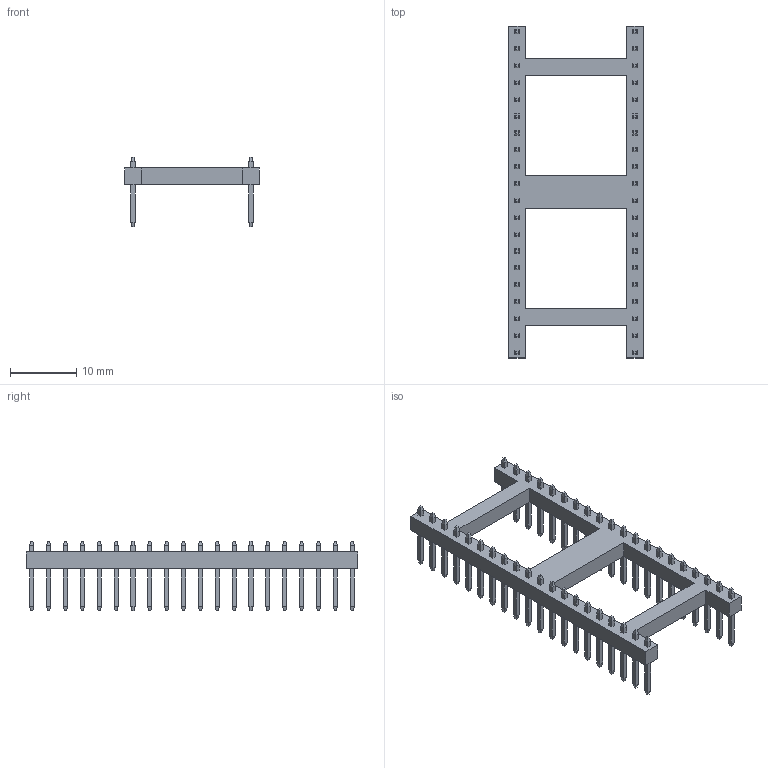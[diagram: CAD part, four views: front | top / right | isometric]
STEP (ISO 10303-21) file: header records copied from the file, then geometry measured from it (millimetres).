
FILE_DESCRIPTION(/* description */ ('STEP AP242 Edition 2','CAx-IF Rec.Pracs.---Representation and Presentation of Product Manufacturing Information (PMI)---4.0---2014-10-13','CAx-IF Rec.Pracs.---3D Tessellated Geometry---0.4---2014-09-14','2;1','CAx-IF Rec.Pracs.---User Defined Attributes---1.5---2016-08-15'),/* implementation_level */ '2;1');
FILE_NAME(/* name */ 'HIRO posing assembly - RaspberryPi_Pico_Header_DIP-40_H2.54mm_KiCad',/* time_stamp */ '2026-11-04T05:15:24Z',/* author */ (''),/* organization */ (''),/* preprocessor_version */ 'ST-DEVELOPER v20',/* originating_system */ 'ONSHAPE BY PTC INC, 1.223',/* authorisation */ ' ');
FILE_SCHEMA (('AP242_MANAGED_MODEL_BASED_3D_ENGINEERING_MIM_LF { 1 0 10303 442 3 1 4 }'));
Length unit declared in the file: metre
Products named in the file (1): RaspberryPi_Pico_Header_DIP-40_H2.54mm_KiCad
Bounding box: 20.32 x 50 x 10.53 mm (x, y, z)
Volume: 1158.7 mm3; surface area: 2289.9 mm2
Topology: 1 solids, 1 shells, 742 faces, 1660 edges, 1000 vertices
Faces by surface type: plane 742
Entity records: 19909 total; most frequent: CARTESIAN_POINT 3403, ORIENTED_EDGE 3320, DIRECTION 3146, EDGE_CURVE 1660, LINE 1660, VECTOR 1660, VERTEX_POINT 1000, EDGE_LOOP 826
